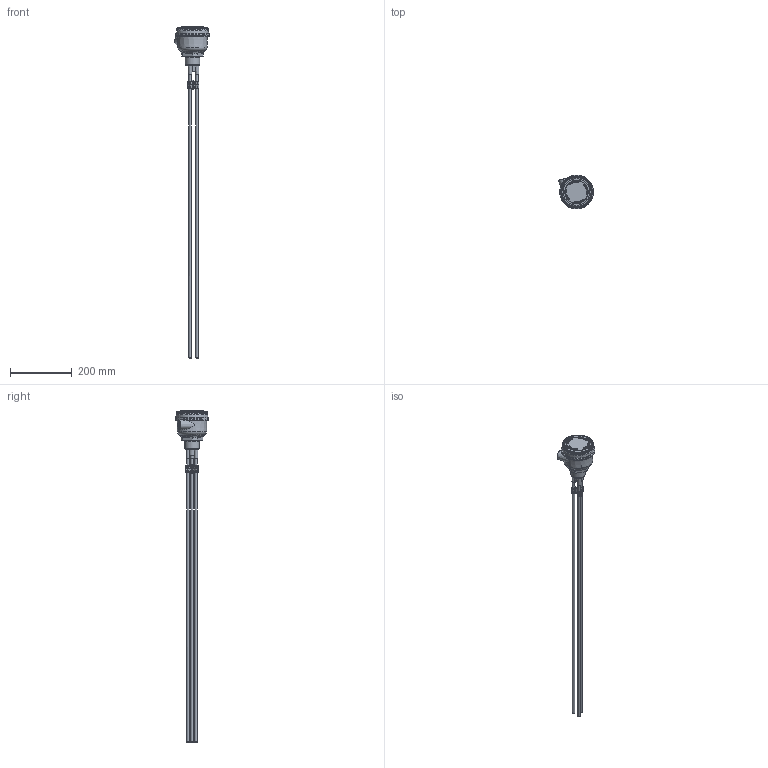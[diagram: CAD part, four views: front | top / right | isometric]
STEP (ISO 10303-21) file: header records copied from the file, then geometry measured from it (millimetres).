
FILE_DESCRIPTION(/* description */ (''),/* implementation_level */ '2;1');
FILE_NAME(/* name */ '\\Srvgest\camlogic\TECNICO\Inventor\Step\2_STEP\CLC40.stp',/* time_stamp */ '2021-11-03T18:16:52+01:00',/* author */ ('nicola.ruozzi'),/* organization */ (''),/* preprocessor_version */ 'ST-DEVELOPER v18.1',/* originating_system */ 'Autodesk Inventor 2022',/* authorisation */ '');
FILE_SCHEMA (('AUTOMOTIVE_DESIGN { 1 0 10303 214 3 1 1 }'));
Products named in the file (1): CLC40
Bounding box: 113.26 x 110 x 1078.5 mm (x, y, z)
Volume: 373166.6 mm3; surface area: 194552.2 mm2
Topology: 2 solids, 2 shells, 2242 faces, 5541 edges, 3277 vertices
Faces by surface type: cylinder 629, bspline 626, torus 480, plane 353, cone 106, sphere 48
Full cylindrical faces by diameter (mm): 5 x4, 6 x2, 8 x3, 18.631 x1, 44.5 x1, 44.85 x1, 47.5 x1, 95.4 x4, 97.48 x4, 97.587 x1, 98 x1, 110 x2
Entity records: 107079 total; most frequent: CARTESIAN_POINT 55426, ORIENTED_EDGE 10970, DIRECTION 9620, EDGE_CURVE 5485, AXIS2_PLACEMENT_3D 4088, VERTEX_POINT 3277, CIRCLE 2384, EDGE_LOOP 2278
